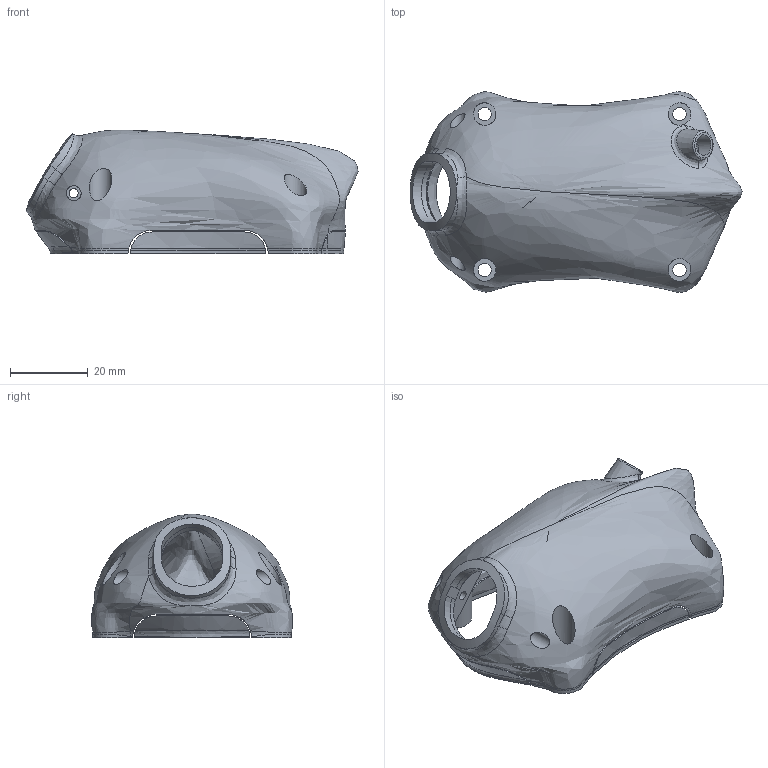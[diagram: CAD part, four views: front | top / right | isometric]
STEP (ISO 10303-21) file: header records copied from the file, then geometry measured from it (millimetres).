
FILE_DESCRIPTION(/* description */ (''),/* implementation_level */ '2;1');
FILE_NAME(/* name */ 'C:/modellbau-koepenick.de/canopies/pods/ZOZI/FlatCat/f19var20-s___ZOz1-canopy_by_SMK.step',/* time_stamp */ '2021-10-15T22:56:08+02:00',/* author */ (''),/* organization */ (''),/* preprocessor_version */ 'ST-DEVELOPER v18.1',/* originating_system */ 'Autodesk Translation Framework v10.10.0.1391',/* authorisation */ '');
FILE_SCHEMA (('AUTOMOTIVE_DESIGN { 1 0 10303 214 3 1 1 }'));
Products named in the file (1): f19var20-s
Bounding box: 85.21 x 51.53 x 31.73 mm (x, y, z)
Volume: 14074.9 mm3; surface area: 17770.7 mm2
Topology: 5 solids, 5 shells, 174 faces, 461 edges, 300 vertices
Faces by surface type: bspline 102, cylinder 35, plane 34, torus 2, cone 1
Full cylindrical faces by diameter (mm): 2.3 x2, 3.4 x4, 3.8 x2, 5.3 x2, 5.8 x4
Entity records: 49511 total; most frequent: CARTESIAN_POINT 45991, ORIENTED_EDGE 914, EDGE_CURVE 457, DIRECTION 372, B_SPLINE_CURVE_WITH_KNOTS 305, VERTEX_POINT 300, EDGE_LOOP 197, FACE_OUTER_BOUND 174
